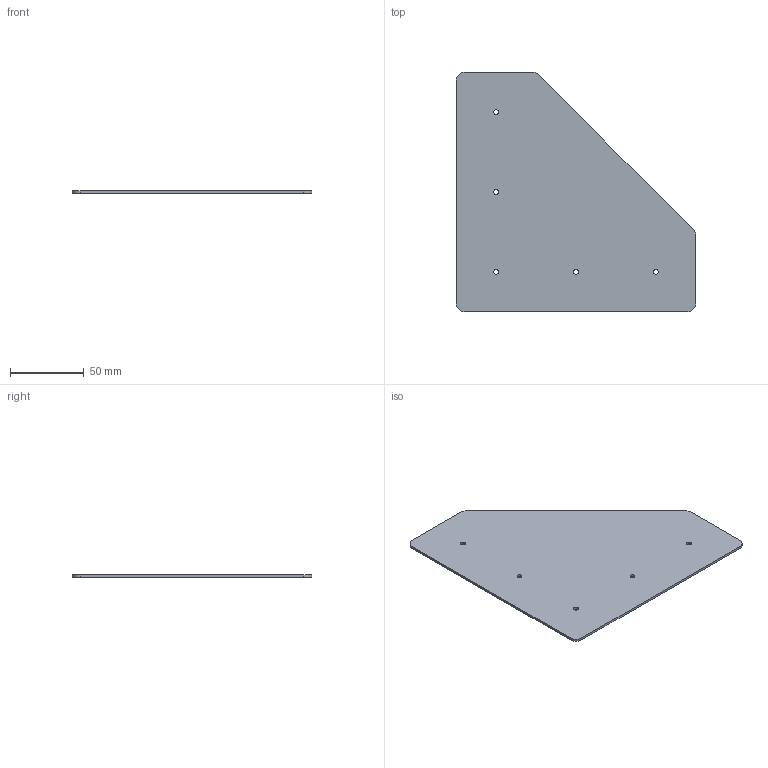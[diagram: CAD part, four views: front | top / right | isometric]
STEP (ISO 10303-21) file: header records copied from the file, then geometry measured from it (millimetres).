
FILE_DESCRIPTION (( 'STEP AP203' ), '1' );
FILE_NAME ('FDPGK-S_2-3C90.step', '2019-09-11T19:49:44', ( 'ydmin' ), ( '' ), 'SwSTEP 2.0', 'SolidWorks 2017', '' );
FILE_SCHEMA (( 'CONFIG_CONTROL_DESIGN' ));
Length unit declared in the file: inch
Products named in the file (1): FDPGK-S_2-3C90
Bounding box: 161.93 x 161.93 x 1.59 mm (x, y, z)
Volume: 32272.4 mm3; surface area: 41656.2 mm2
Topology: 1 solids, 1 shells, 22 faces, 60 edges, 40 vertices
Faces by surface type: cylinder 15, plane 7
Entity records: 813 total; most frequent: DIRECTION 136, CARTESIAN_POINT 123, ORIENTED_EDGE 120, EDGE_CURVE 60, AXIS2_PLACEMENT_3D 53, VERTEX_POINT 40, EDGE_LOOP 32, VECTOR 30
